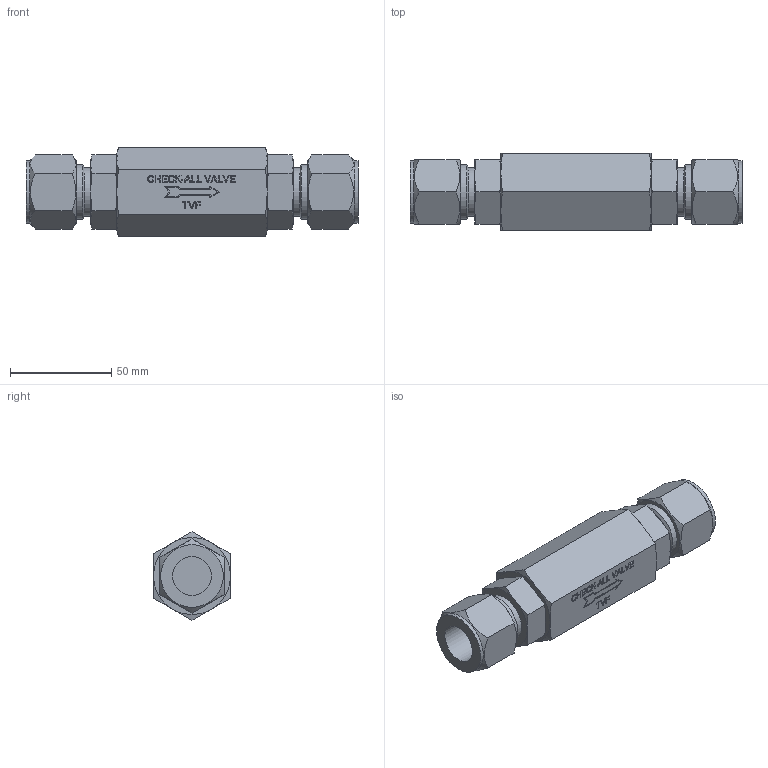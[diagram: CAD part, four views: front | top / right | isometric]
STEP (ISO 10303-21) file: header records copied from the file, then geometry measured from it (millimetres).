
FILE_DESCRIPTION( ( 'Unknown' ), '1' );
FILE_NAME( 'Y:/ENGR/3D Solid Edge Models/TV/stp/TVF.stp', 'Unknown', ( 'Unknown' ), ( 'Unknown' ), 'PSStep 16.0.42', 'Unknown', ' ' );
FILE_SCHEMA( ( 'AUTOMOTIVE_DESIGN { 1 0 10303 214 1 1 1 1 }' ) );
Length unit declared in the file: millimetre
Products named in the file (1): 1
Bounding box: 164.34 x 38.1 x 43.99 mm (x, y, z)
Volume: 152043 mm3; surface area: 26195.7 mm2
Topology: 1 solids, 1 shells, 274 faces, 693 edges, 450 vertices
Faces by surface type: extrusion 139, plane 85, cone 42, cylinder 8
Full cylindrical faces by diameter (mm): 19.304 x2, 24.003 x2, 26.988 x2, 30.988 x2
Entity records: 11515 total; most frequent: CARTESIAN_POINT 2858, ORIENTED_EDGE 1338, DIRECTION 885, EDGE_CURVE 669, VECTOR 505, VERTEX_POINT 440, B_SPLINE_CURVE_WITH_KNOTS 388, PRESENTATION_STYLE_ASSIGNMENT 381
